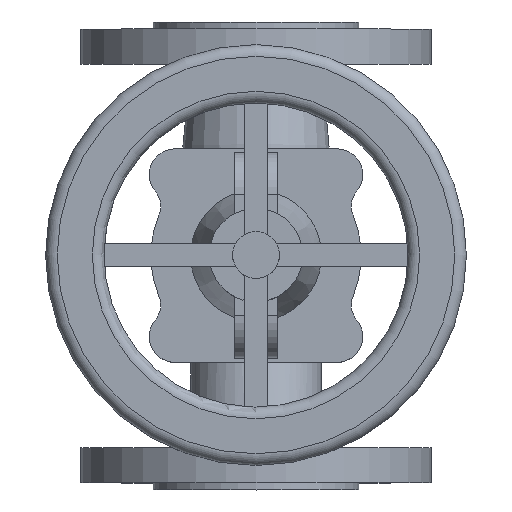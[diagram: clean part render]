
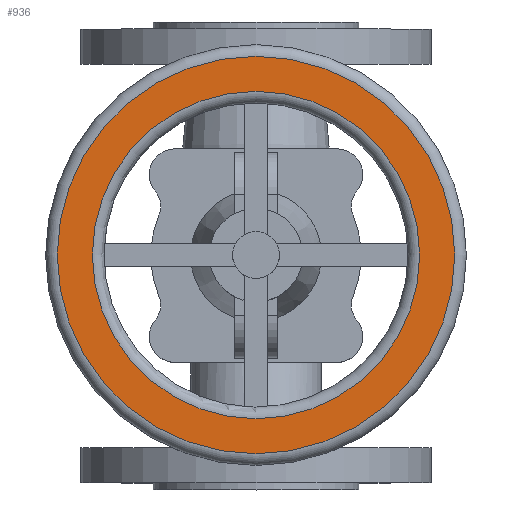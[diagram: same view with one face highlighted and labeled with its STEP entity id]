
A CAD part, top view. The second image highlights one B-rep face of the part: STEP entity #936.
In plain terms, the highlighted planar face has unit normal (0, 0, 1).
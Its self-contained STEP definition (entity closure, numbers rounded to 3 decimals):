
#936=ADVANCED_FACE('',(#2522,#2524),#2526,.T.);
#2522=FACE_BOUND('',#2523,.T.);
#2523=EDGE_LOOP('',(#32054,#32055));
#2524=FACE_BOUND('',#2525,.T.);
#2525=EDGE_LOOP('',(#32056,#32057));
#2526=PLANE('',#2527);
#2527=AXIS2_PLACEMENT_3D('',#2528,#2529,#2530);
#2528=CARTESIAN_POINT('',(0.,0.,235.));
#2529=DIRECTION('',(0.,0.,1.));
#2530=DIRECTION('',(0.,1.,0.));
#32054=ORIENTED_EDGE('',*,*,#40957,.F.);
#32055=ORIENTED_EDGE('',*,*,#40958,.F.);
#32056=ORIENTED_EDGE('',*,*,#40930,.T.);
#32057=ORIENTED_EDGE('',*,*,#40929,.T.);
#40929=EDGE_CURVE('',#41611,#41612,#41613,.T.);
#40930=EDGE_CURVE('',#41612,#41611,#41614,.T.);
#40957=EDGE_CURVE('',#41655,#41656,#41657,.T.);
#40958=EDGE_CURVE('',#41656,#41655,#41658,.T.);
#41611=VERTEX_POINT('',#43125);
#41612=VERTEX_POINT('',#43126);
#41613=CIRCLE('',#43127,70.);
#41614=CIRCLE('',#43131,70.);
#41655=VERTEX_POINT('',#43239);
#41656=VERTEX_POINT('',#43240);
#41657=CIRCLE('',#43241,85.);
#41658=CIRCLE('',#43245,85.);
#43125=CARTESIAN_POINT('',(0.,-70.,235.));
#43126=CARTESIAN_POINT('',(0.,70.,235.));
#43127=AXIS2_PLACEMENT_3D('',#43128,#43129,#43130);
#43128=CARTESIAN_POINT('',(0.,0.,235.));
#43129=DIRECTION('',(0.,0.,-1.));
#43130=DIRECTION('',(0.,-1.,0.));
#43131=AXIS2_PLACEMENT_3D('',#43132,#43133,#43134);
#43132=CARTESIAN_POINT('',(0.,0.,235.));
#43133=DIRECTION('',(0.,0.,-1.));
#43134=DIRECTION('',(0.,1.,0.));
#43239=CARTESIAN_POINT('',(0.,-85.,235.));
#43240=CARTESIAN_POINT('',(0.,85.,235.));
#43241=AXIS2_PLACEMENT_3D('',#43242,#43243,#43244);
#43242=CARTESIAN_POINT('',(0.,0.,235.));
#43243=DIRECTION('',(0.,0.,-1.));
#43244=DIRECTION('',(0.,-1.,0.));
#43245=AXIS2_PLACEMENT_3D('',#43246,#43247,#43248);
#43246=CARTESIAN_POINT('',(0.,0.,235.));
#43247=DIRECTION('',(0.,0.,-1.));
#43248=DIRECTION('',(0.,1.,0.));
